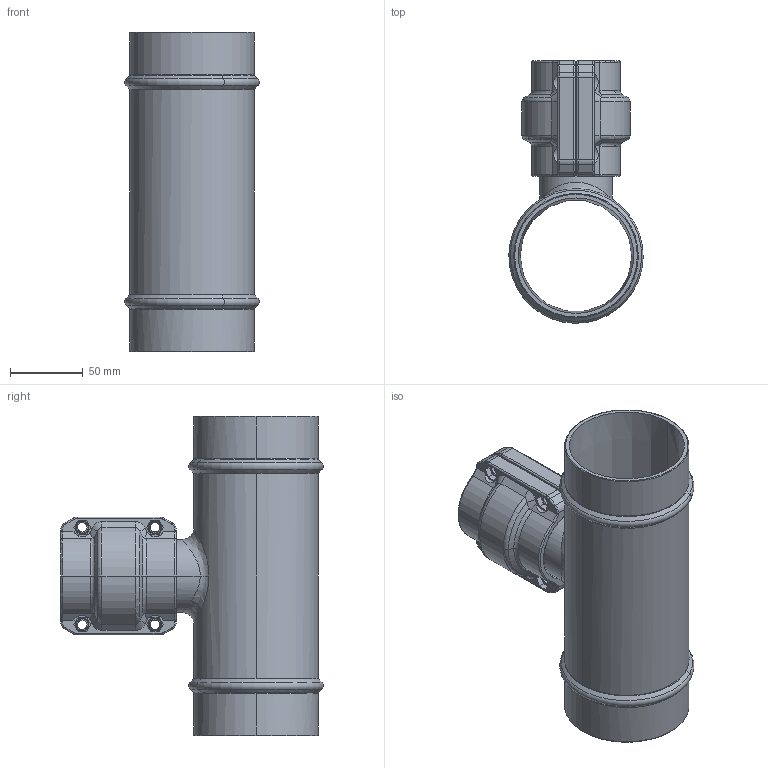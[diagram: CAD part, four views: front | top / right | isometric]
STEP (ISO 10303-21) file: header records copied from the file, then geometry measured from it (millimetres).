
FILE_DESCRIPTION(/* description */ (''),/* implementation_level */ '2;1');
FILE_NAME(/* name */ '7507_stp_stp.stp',/* time_stamp */ '2025-06-23T12:54:19+08:00',/* author */ (''),/* organization */ (''),/* preprocessor_version */ 'ST-DEVELOPER v11',/* originating_system */ 'SIEMENS PLM Software NX 7.5',/* authorisation */ '');
FILE_SCHEMA (('CONFIG_CONTROL_DESIGN'));
Length unit declared in the file: millimetre
Products named in the file (1): AdmiBEADaldl
Bounding box: 92.37 x 180.44 x 220 mm (x, y, z)
Volume: 331554.1 mm3; surface area: 173306.5 mm2
Topology: 3 solids, 3 shells, 642 faces, 1534 edges, 894 vertices
Faces by surface type: cylinder 207, torus 158, bspline 116, plane 83, cone 66, sphere 12
Entity records: 24876 total; most frequent: CARTESIAN_POINT 10891, ORIENTED_EDGE 3052, DIRECTION 2714, EDGE_CURVE 1526, AXIS2_PLACEMENT_3D 1126, VERTEX_POINT 894, EDGE_LOOP 666, ADVANCED_FACE 642
